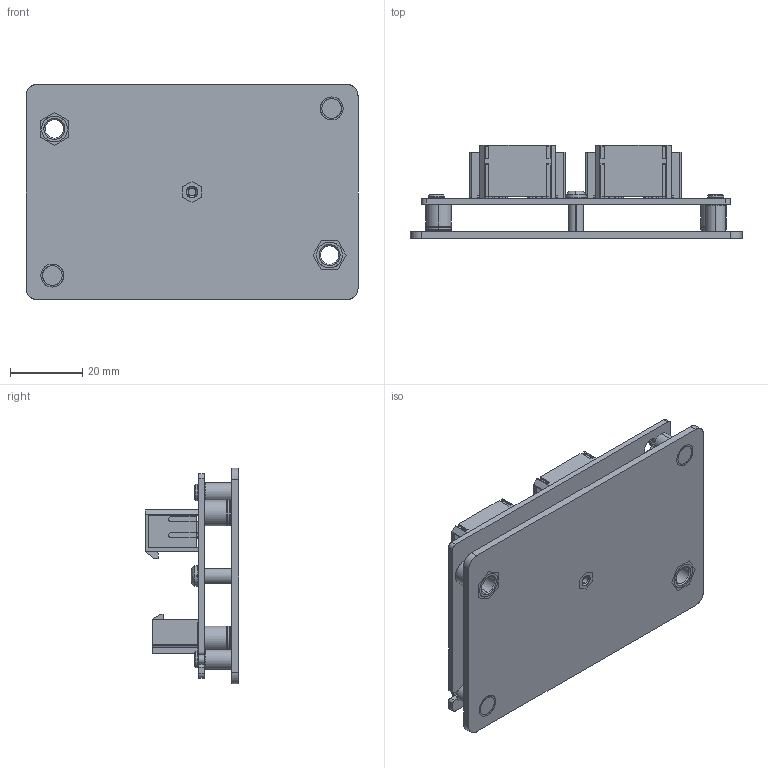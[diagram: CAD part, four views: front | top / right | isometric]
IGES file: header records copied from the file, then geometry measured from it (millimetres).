
Start section: SolidWorks IGES file using analytic representation for surfaces
Global section: file name: C:\TeknicPDM\EtherPath CPM-S\EtherPath CPM-S Customer Files\PWR Customer Models\PWR4-STRIP-S.IGS; native system: SolidWorks 2020; preprocessor: SolidWorks 2020; author: mike_berezny; date: 230818.120432; units: inch
Bounding box: 91.95 x 25.89 x 59.69 mm (x, y, z)
Surface area: 33403.8 mm2 (no closed solid volume)
Topology: 0 solids, 0 shells, 1102 faces, 9858 edges, 9846 vertices
Faces by surface type: bspline 874, revolution 228
